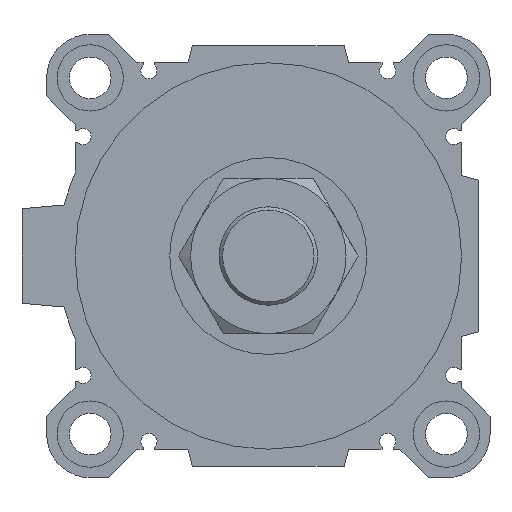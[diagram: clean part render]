
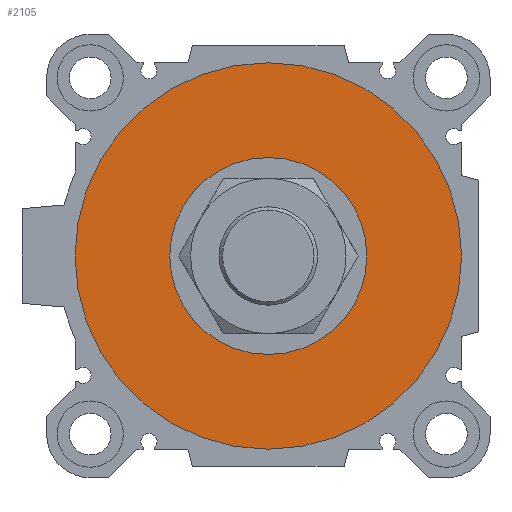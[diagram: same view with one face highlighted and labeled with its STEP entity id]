
A CAD part, left-side view. The second image highlights one B-rep face of the part: STEP entity #2105.
In plain terms, the highlighted planar face has unit normal (-1, 0, 0).
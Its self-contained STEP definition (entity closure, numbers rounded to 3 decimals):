
#146 = DIRECTION ( 'NONE',  ( 0., 0., -1. ) ) ;
#210 = CIRCLE ( 'NONE', #7231, 26. ) ;
#1267 = CARTESIAN_POINT ( 'NONE',  ( 6.5, 0., 0. ) ) ;
#1282 = DIRECTION ( 'NONE',  ( 1., 0., 0. ) ) ;
#1390 = ORIENTED_EDGE ( 'NONE', *, *, #6488, .F. ) ;
#1433 = DIRECTION ( 'NONE',  ( 0., 1., 0. ) ) ;
#1558 = FACE_OUTER_BOUND ( 'NONE', #4433, .T. ) ;
#1686 = EDGE_CURVE ( 'NONE', #5475, #4660, #2100, .T. ) ;
#1824 = AXIS2_PLACEMENT_3D ( 'NONE', #5432, #1282, #2997 ) ;
#1869 = DIRECTION ( 'NONE',  ( 1., 0., 0. ) ) ;
#2100 = CIRCLE ( 'NONE', #3232, 51. ) ;
#2105 = ADVANCED_FACE ( 'NONE', ( #1558, #3346 ), #4502, .F. ) ;
#2278 = ORIENTED_EDGE ( 'NONE', *, *, #3081, .T. ) ;
#2551 = DIRECTION ( 'NONE',  ( 1., 0., 0. ) ) ;
#2699 = AXIS2_PLACEMENT_3D ( 'NONE', #6427, #4547, #1433 ) ;
#2997 = DIRECTION ( 'NONE',  ( 0., 0., -1. ) ) ;
#3081 = EDGE_CURVE ( 'NONE', #4399, #5092, #3432, .T. ) ;
#3203 = EDGE_LOOP ( 'NONE', ( #6633, #2278 ) ) ;
#3232 = AXIS2_PLACEMENT_3D ( 'NONE', #3923, #2551, #146 ) ;
#3346 = FACE_BOUND ( 'NONE', #3203, .T. ) ;
#3432 = CIRCLE ( 'NONE', #6639, 26. ) ;
#3646 = CARTESIAN_POINT ( 'NONE',  ( 6.5, 0., -26. ) ) ;
#3735 = CARTESIAN_POINT ( 'NONE',  ( 6.5, 0., 51. ) ) ;
#3923 = CARTESIAN_POINT ( 'NONE',  ( 6.5, 0., 0. ) ) ;
#4326 = DIRECTION ( 'NONE',  ( 1., 0., 0. ) ) ;
#4399 = VERTEX_POINT ( 'NONE', #3646 ) ;
#4433 = EDGE_LOOP ( 'NONE', ( #5300, #1390 ) ) ;
#4502 = PLANE ( 'NONE',  #2699 ) ;
#4547 = DIRECTION ( 'NONE',  ( 1., 0., 0. ) ) ;
#4660 = VERTEX_POINT ( 'NONE', #5714 ) ;
#4818 = CARTESIAN_POINT ( 'NONE',  ( 6.5, 0., 0. ) ) ;
#5024 = EDGE_CURVE ( 'NONE', #5092, #4399, #210, .T. ) ;
#5092 = VERTEX_POINT ( 'NONE', #5646 ) ;
#5256 = CIRCLE ( 'NONE', #1824, 51. ) ;
#5300 = ORIENTED_EDGE ( 'NONE', *, *, #1686, .F. ) ;
#5432 = CARTESIAN_POINT ( 'NONE',  ( 6.5, 0., 0. ) ) ;
#5475 = VERTEX_POINT ( 'NONE', #3735 ) ;
#5646 = CARTESIAN_POINT ( 'NONE',  ( 6.5, 0., 26. ) ) ;
#5714 = CARTESIAN_POINT ( 'NONE',  ( 6.5, 0., -51. ) ) ;
#6427 = CARTESIAN_POINT ( 'NONE',  ( 6.5, 0., 0. ) ) ;
#6488 = EDGE_CURVE ( 'NONE', #4660, #5475, #5256, .T. ) ;
#6633 = ORIENTED_EDGE ( 'NONE', *, *, #5024, .T. ) ;
#6639 = AXIS2_PLACEMENT_3D ( 'NONE', #1267, #4326, #7875 ) ;
#7231 = AXIS2_PLACEMENT_3D ( 'NONE', #4818, #1869, #7287 ) ;
#7287 = DIRECTION ( 'NONE',  ( 0., 0., -1. ) ) ;
#7875 = DIRECTION ( 'NONE',  ( 0., 0., -1. ) ) ;
